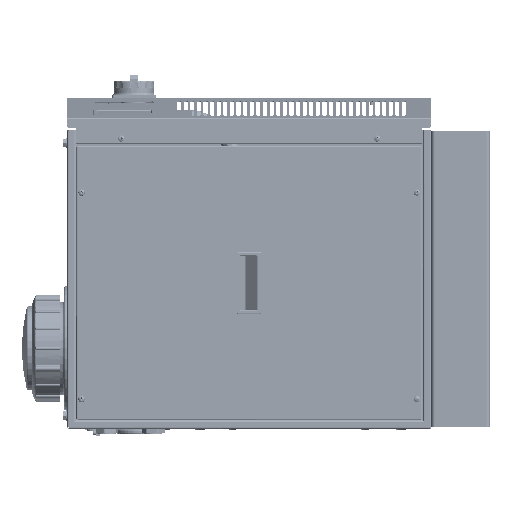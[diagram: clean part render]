
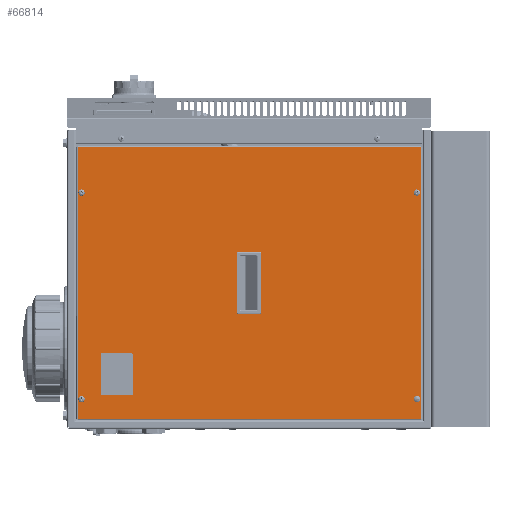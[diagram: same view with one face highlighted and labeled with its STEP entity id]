
A CAD part, left-side view. The second image highlights one B-rep face of the part: STEP entity #66814.
In plain terms, the highlighted planar face has unit normal (-1, 0, 0) as drawn and (0, 0, 1) by its records, which use the part's own axes.
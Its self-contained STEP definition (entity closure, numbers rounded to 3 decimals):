
#34711 = CARTESIAN_POINT ( 'NONE',  ( 139.517, 253.5, 0. ) ) ;
#34714 = CARTESIAN_POINT ( 'NONE',  ( -172.693, 253.5, 0. ) ) ;
#34718 = CARTESIAN_POINT ( 'NONE',  ( 139.517, -253.5, 0. ) ) ;
#34721 = CARTESIAN_POINT ( 'NONE',  ( -172.693, -253.5, 0. ) ) ;
#40286 = VERTEX_POINT ( 'NONE', #34711 ) ;
#40293 = VERTEX_POINT ( 'NONE', #34714 ) ;
#40299 = VERTEX_POINT ( 'NONE', #34718 ) ;
#40304 = VERTEX_POINT ( 'NONE', #34721 ) ;
#66814 = ADVANCED_FACE ( 'NONE', ( #477637, #477645, #477633, #477649, #477654, #477659 ), #705891, .F. ) ;
#73986 = EDGE_LOOP ( 'NONE', ( #720317, #720323, #720329, #720333 ) ) ;
#74011 = EDGE_LOOP ( 'NONE', ( #720299 ) ) ;
#74332 = EDGE_LOOP ( 'NONE', ( #720279 ) ) ;
#74351 = EDGE_LOOP ( 'NONE', ( #720286 ) ) ;
#74949 = EDGE_LOOP ( 'NONE', ( #720272 ) ) ;
#227708 = EDGE_LOOP ( 'NONE', ( #720229, #720249, #720257, #720266 ) ) ;
#234475 = VERTEX_POINT ( 'NONE', #628969 ) ;
#234553 = VERTEX_POINT ( 'NONE', #629022 ) ;
#234800 = VERTEX_POINT ( 'NONE', #629038 ) ;
#234805 = VERTEX_POINT ( 'NONE', #628998 ) ;
#336345 = EDGE_CURVE ( 'NONE', #611752, #611612, #352638, .T. ) ;
#336351 = EDGE_CURVE ( 'NONE', #437760, #611752, #352647, .T. ) ;
#336357 = EDGE_CURVE ( 'NONE', #437773, #437760, #352663, .T. ) ;
#336362 = EDGE_CURVE ( 'NONE', #611612, #437773, #352678, .T. ) ;
#336368 = EDGE_CURVE ( 'NONE', #40286, #40286, #352689, .T. ) ;
#336373 = EDGE_CURVE ( 'NONE', #40293, #40293, #352707, .T. ) ;
#336379 = EDGE_CURVE ( 'NONE', #40299, #40299, #352713, .T. ) ;
#336384 = EDGE_CURVE ( 'NONE', #40304, #40304, #352719, .T. ) ;
#336389 = EDGE_CURVE ( 'NONE', #234800, #234805, #352732, .T. ) ;
#336395 = EDGE_CURVE ( 'NONE', #234805, #234475, #352726, .T. ) ;
#336401 = EDGE_CURVE ( 'NONE', #234475, #234553, #352739, .T. ) ;
#336406 = EDGE_CURVE ( 'NONE', #234553, #234800, #352753, .T. ) ;
#352333 = VECTOR ( 'NONE', #808490, 1000. ) ;
#352638 = LINE ( 'NONE', #808263, #352655 ) ;
#352647 = LINE ( 'NONE', #808291, #352671 ) ;
#352655 = VECTOR ( 'NONE', #808268, 1000. ) ;
#352663 = LINE ( 'NONE', #808307, #352684 ) ;
#352671 = VECTOR ( 'NONE', #808285, 1000. ) ;
#352678 = LINE ( 'NONE', #808326, #352694 ) ;
#352684 = VECTOR ( 'NONE', #808298, 1000. ) ;
#352689 = CIRCLE ( 'NONE', #576451, 2.807 ) ;
#352694 = VECTOR ( 'NONE', #808314, 1000. ) ;
#352707 = CIRCLE ( 'NONE', #576456, 2.807 ) ;
#352713 = CIRCLE ( 'NONE', #576462, 2.807 ) ;
#352719 = CIRCLE ( 'NONE', #576468, 2.807 ) ;
#352726 = LINE ( 'NONE', #808462, #352746 ) ;
#352732 = LINE ( 'NONE', #808428, #352333 ) ;
#352739 = LINE ( 'NONE', #808497, #352760 ) ;
#352746 = VECTOR ( 'NONE', #808455, 1000. ) ;
#352753 = LINE ( 'NONE', #808508, #352774 ) ;
#352760 = VECTOR ( 'NONE', #808502, 1000. ) ;
#352774 = VECTOR ( 'NONE', #808533, 1000. ) ;
#374513 = CARTESIAN_POINT ( 'NONE',  ( -43.75, 15.35, 0. ) ) ;
#374520 = CARTESIAN_POINT ( 'NONE',  ( 43.75, 15.35, 0. ) ) ;
#422890 = AXIS2_PLACEMENT_3D ( 'NONE', #705919, #705934, #705935 ) ;
#437760 = VERTEX_POINT ( 'NONE', #513295 ) ;
#437773 = VERTEX_POINT ( 'NONE', #513309 ) ;
#477633 = FACE_BOUND ( 'NONE', #74332, .T. ) ;
#477637 = FACE_BOUND ( 'NONE', #227708, .T. ) ;
#477645 = FACE_BOUND ( 'NONE', #74949, .T. ) ;
#477649 = FACE_BOUND ( 'NONE', #74351, .T. ) ;
#477654 = FACE_BOUND ( 'NONE', #74011, .T. ) ;
#477659 = FACE_OUTER_BOUND ( 'NONE', #73986, .T. ) ;
#513295 = CARTESIAN_POINT ( 'NONE',  ( 43.75, -15.35, 0. ) ) ;
#513309 = CARTESIAN_POINT ( 'NONE',  ( -43.75, -15.35, 0. ) ) ;
#576451 = AXIS2_PLACEMENT_3D ( 'NONE', #808375, #808382, #808388 ) ;
#576456 = AXIS2_PLACEMENT_3D ( 'NONE', #808405, #808410, #808416 ) ;
#576462 = AXIS2_PLACEMENT_3D ( 'NONE', #808434, #808441, #808447 ) ;
#576468 = AXIS2_PLACEMENT_3D ( 'NONE', #808469, #808477, #808483 ) ;
#611612 = VERTEX_POINT ( 'NONE', #374513 ) ;
#611752 = VERTEX_POINT ( 'NONE', #374520 ) ;
#628969 = CARTESIAN_POINT ( 'NONE',  ( -205.29, 259.29, 0. ) ) ;
#628998 = CARTESIAN_POINT ( 'NONE',  ( 205.29, 259.29, 0. ) ) ;
#629022 = CARTESIAN_POINT ( 'NONE',  ( -205.29, -259.29, 0. ) ) ;
#629038 = CARTESIAN_POINT ( 'NONE',  ( 205.29, -259.29, 0. ) ) ;
#705891 = PLANE ( 'NONE',  #422890 ) ;
#705919 = CARTESIAN_POINT ( 'NONE',  ( 0., 0., 0. ) ) ;
#705934 = DIRECTION ( 'NONE',  ( 0., 0., -1. ) ) ;
#705935 = DIRECTION ( 'NONE',  ( -1., 0., 0. ) ) ;
#720229 = ORIENTED_EDGE ( 'NONE', *, *, #336345, .F. ) ;
#720249 = ORIENTED_EDGE ( 'NONE', *, *, #336351, .F. ) ;
#720257 = ORIENTED_EDGE ( 'NONE', *, *, #336357, .F. ) ;
#720266 = ORIENTED_EDGE ( 'NONE', *, *, #336362, .F. ) ;
#720272 = ORIENTED_EDGE ( 'NONE', *, *, #336368, .F. ) ;
#720279 = ORIENTED_EDGE ( 'NONE', *, *, #336373, .F. ) ;
#720286 = ORIENTED_EDGE ( 'NONE', *, *, #336379, .F. ) ;
#720299 = ORIENTED_EDGE ( 'NONE', *, *, #336384, .F. ) ;
#720317 = ORIENTED_EDGE ( 'NONE', *, *, #336389, .T. ) ;
#720323 = ORIENTED_EDGE ( 'NONE', *, *, #336395, .T. ) ;
#720329 = ORIENTED_EDGE ( 'NONE', *, *, #336401, .T. ) ;
#720333 = ORIENTED_EDGE ( 'NONE', *, *, #336406, .T. ) ;
#808263 = CARTESIAN_POINT ( 'NONE',  ( -43.75, 15.35, 0. ) ) ;
#808268 = DIRECTION ( 'NONE',  ( -1., 0., 0. ) ) ;
#808285 = DIRECTION ( 'NONE',  ( 0., 1., 0. ) ) ;
#808291 = CARTESIAN_POINT ( 'NONE',  ( 43.75, -15.35, 0. ) ) ;
#808298 = DIRECTION ( 'NONE',  ( 1., 0., 0. ) ) ;
#808307 = CARTESIAN_POINT ( 'NONE',  ( -43.75, -15.35, 0. ) ) ;
#808314 = DIRECTION ( 'NONE',  ( 0., -1., 0. ) ) ;
#808326 = CARTESIAN_POINT ( 'NONE',  ( -43.75, -15.35, 0. ) ) ;
#808375 = CARTESIAN_POINT ( 'NONE',  ( 136.71, 253.5, 0. ) ) ;
#808382 = DIRECTION ( 'NONE',  ( 0., 0., 1. ) ) ;
#808388 = DIRECTION ( 'NONE',  ( 1., 0., 0. ) ) ;
#808405 = CARTESIAN_POINT ( 'NONE',  ( -175.5, 253.5, 0. ) ) ;
#808410 = DIRECTION ( 'NONE',  ( 0., 0., 1. ) ) ;
#808416 = DIRECTION ( 'NONE',  ( 1., 0., 0. ) ) ;
#808428 = CARTESIAN_POINT ( 'NONE',  ( 205.29, -259.37, 0. ) ) ;
#808434 = CARTESIAN_POINT ( 'NONE',  ( 136.71, -253.5, 0. ) ) ;
#808441 = DIRECTION ( 'NONE',  ( 0., 0., 1. ) ) ;
#808447 = DIRECTION ( 'NONE',  ( 1., 0., 0. ) ) ;
#808455 = DIRECTION ( 'NONE',  ( -1., 0., 0. ) ) ;
#808462 = CARTESIAN_POINT ( 'NONE',  ( 205.37, 259.29, 0. ) ) ;
#808469 = CARTESIAN_POINT ( 'NONE',  ( -175.5, -253.5, 0. ) ) ;
#808477 = DIRECTION ( 'NONE',  ( 0., 0., 1. ) ) ;
#808483 = DIRECTION ( 'NONE',  ( 1., 0., 0. ) ) ;
#808490 = DIRECTION ( 'NONE',  ( 0., 1., 0. ) ) ;
#808497 = CARTESIAN_POINT ( 'NONE',  ( -205.29, 259.37, 0. ) ) ;
#808502 = DIRECTION ( 'NONE',  ( 0., -1., 0. ) ) ;
#808508 = CARTESIAN_POINT ( 'NONE',  ( -205.37, -259.29, 0. ) ) ;
#808533 = DIRECTION ( 'NONE',  ( 1., 0., 0. ) ) ;
